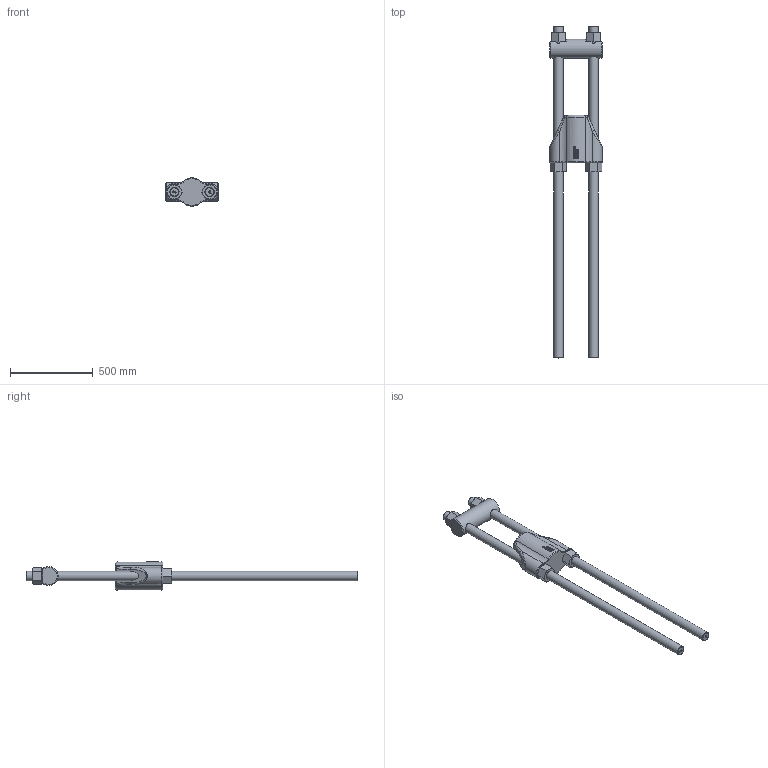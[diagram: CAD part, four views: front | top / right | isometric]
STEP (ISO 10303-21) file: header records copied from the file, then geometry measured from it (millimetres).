
FILE_DESCRIPTION(/* description */ (''),/* implementation_level */ '2;1');
FILE_NAME(/* name */ 'D:\Clienti\Redaelli (inventor)\BRC\STEP\Arrangemet\BRC052 72 111 0.stp',/* time_stamp */ '2021-05-08T08:27:39+02:00',/* author */ ('fabri'),/* organization */ (''),/* preprocessor_version */ 'ST-DEVELOPER v16.13',/* originating_system */ 'Autodesk Inventor 2018',/* authorisation */ '');
FILE_SCHEMA (('AUTOMOTIVE_DESIGN { 1 0 10303 214 3 1 1 }'));
Length unit declared in the file: millimetre
Products named in the file (5): BRC020 72 111 0; BRC020 71 112 0; BRC020 71 114 0_ROD; BRC020 71 113 0; BRC020 71 114 0_NUT
Assembly tree (8 placements, depth 2):
  BRC020 72 111 0
    BRC020 71 112 0
    BRC020 71 114 0_ROD  x2
    BRC020 71 113 0
    BRC020 71 114 0_NUT  x4
Bounding box: 316 x 2000 x 169.72 mm (x, y, z)
Volume: 21258706.4 mm3; surface area: 1312705.4 mm2
Topology: 8 solids, 8 shells, 1574 faces, 4210 edges, 2774 vertices
Faces by surface type: plane 742, bspline 699, cone 62, cylinder 51, torus 20
Full cylindrical faces by diameter (mm): 51.67 x4, 56 x2, 59 x4, 114 x1
Entity records: 31506 total; most frequent: CARTESIAN_POINT 12535, ORIENTED_EDGE 4546, DIRECTION 2661, EDGE_CURVE 2273, VERTEX_POINT 1506, LINE 1253, VECTOR 1253, EDGE_LOOP 945
